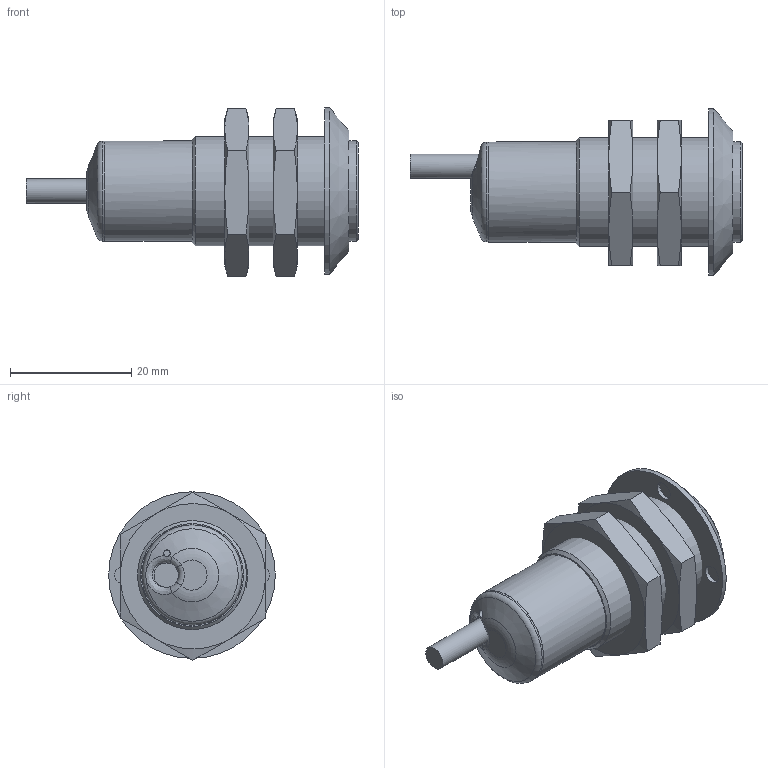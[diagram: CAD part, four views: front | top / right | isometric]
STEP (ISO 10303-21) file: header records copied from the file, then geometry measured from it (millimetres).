
FILE_DESCRIPTION(/* description */ ('Unknown'),/* implementation_level */ '2;1');
FILE_NAME(/* name */ 'OR18.Ex-xWxZ.71CV',/* time_stamp */ '2018-01-11T08:13:36+01:00',/* author */ ('Unknown'),/* organization */ ('Unknown'),/* preprocessor_version */ 'ST-DEVELOPER v16.7',/* originating_system */ 'DEX',/* authorisation */ $);
FILE_SCHEMA (('AUTOMOTIVE_DESIGN {1 0 10303 214 3 1 1}'));
Length unit declared in the file: millimetre
Products named in the file (4): OR18.Ex-xWxZ.71CV; DSD-0125_Plastic_Nut_Baumer; DSD-0698-baumer; DSD-0719_Blocking_Ring_Black_Baumer
Assembly tree (4 placements, depth 2):
  OR18.Ex-xWxZ.71CV
    DSD-0125_Plastic_Nut_Baumer  x2
    DSD-0698-baumer
    DSD-0719_Blocking_Ring_Black_Baumer
Bounding box: 54.8 x 27.5 x 27.81 mm (x, y, z)
Volume: 13715.4 mm3; surface area: 6583.6 mm2
Topology: 4 solids, 12 shells, 131 faces, 294 edges, 192 vertices
Faces by surface type: plane 40, cylinder 37, cone 31, bspline 19, torus 4
Full cylindrical faces by diameter (mm): 3 x4, 4 x1, 15.6 x1, 16.5 x1, 16.55 x2, 16.917 x3, 18 x1, 27.5 x1
Entity records: 3594 total; most frequent: CARTESIAN_POINT 1001, ORIENTED_EDGE 366, DIRECTION 349, EDGE_CURVE 183, AXIS2_PLACEMENT_3D 152, VERTEX_POINT 127, EDGE_LOOP 124, FACE_BOUND 124
